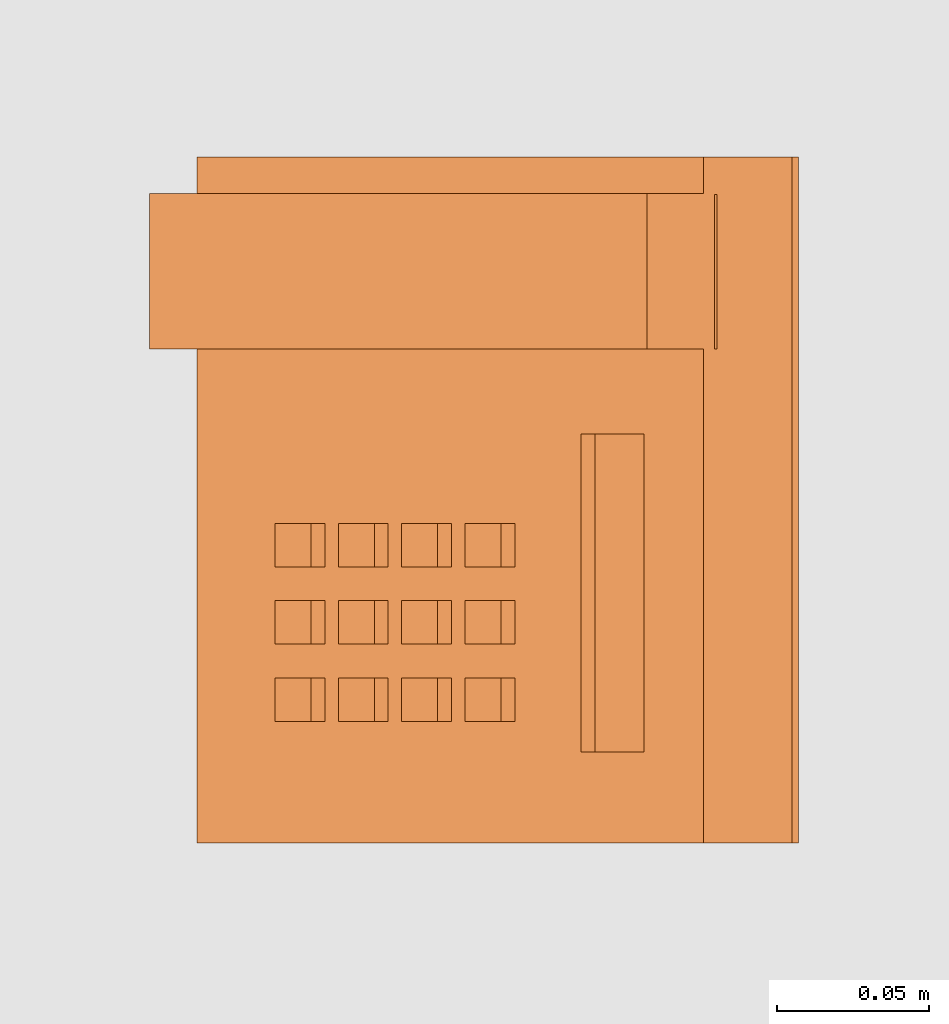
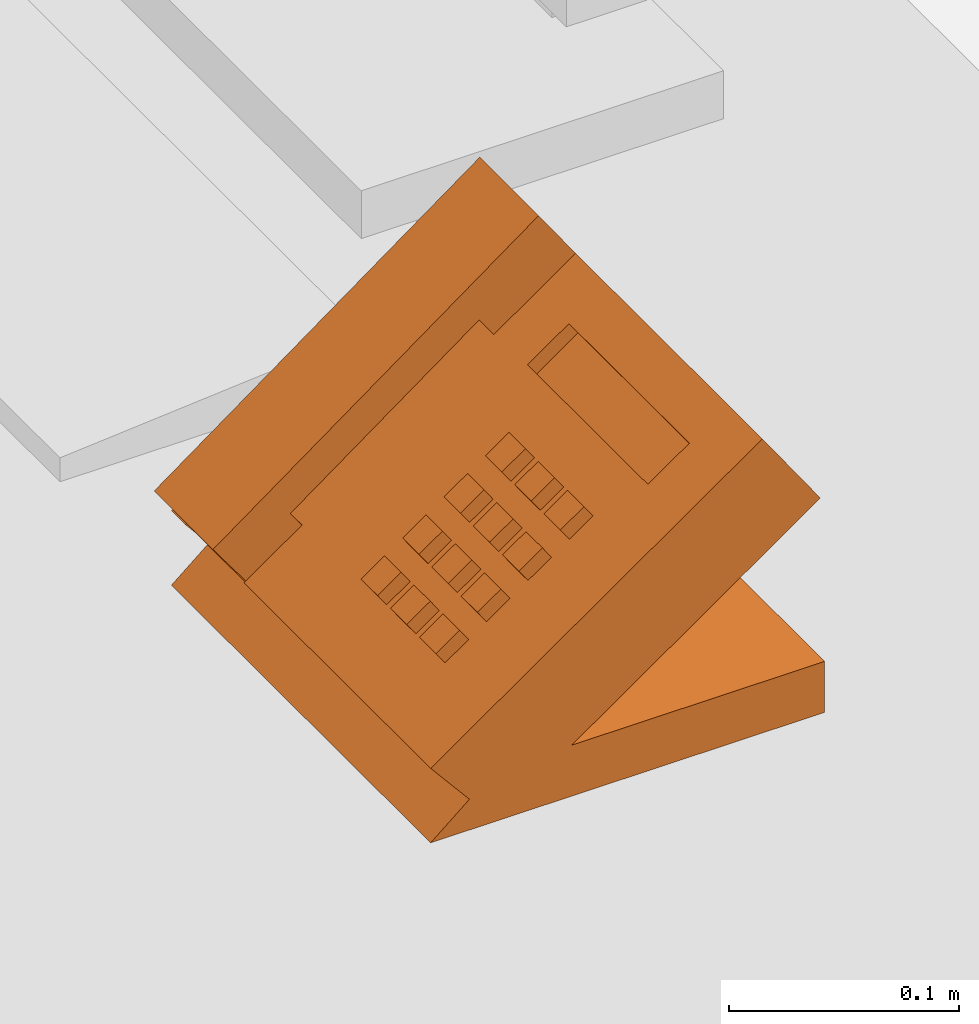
# One storey, part 8 of 10: 1 proxy.
"""IFC2X3 building model written with IfcOpenShell, lengths in feet."""

import ifcopenshell
import ifcopenshell.guid

model = None  # the IFC model being written
_history = None  # IfcOwnerHistory: only IFC2X3 demands one
_inside = {}  # id of a spatial element -> (the spatial element, [elements in it])
_under = {}  # id of a project, library or spatial element -> (it, [spatial elements below it])
_declared = {}  # id of a project -> (the project, [libraries it declares])
_typed = {}  # id of a type object -> (the type object, [elements of that type])
_made_of = {}  # id of a material, layer set ... -> (it, [elements and type objects made of it])


def new_model(schema):
    """Start an empty IFC model of exactly this schema.

    Asked for "IFC4X3", IfcOpenShell would pick the latest addendum, in which some entities
    have other attributes; the version numbers below select the first issue.
    IFC2X3 requires an IfcOwnerHistory on every rooted entity: one is made here for all.
    """
    global model, _history
    if schema == "IFC4X3":
        model = ifcopenshell.file(schema_version=(4, 3, 0, 0))
    else:
        model = ifcopenshell.file(schema=schema)
    _inside.clear()
    _under.clear()
    _declared.clear()
    _typed.clear()
    _made_of.clear()
    _history = None
    if model.schema == "IFC2X3":
        org = make("IfcOrganization", Name="unknown")
        user = make(
            "IfcPersonAndOrganization",
            ThePerson=make("IfcPerson", FamilyName="unknown"),
            TheOrganization=org,
        )
        app = make(
            "IfcApplication",
            ApplicationDeveloper=org,
            Version="unknown",
            ApplicationFullName="unknown",
            ApplicationIdentifier="unknown",
        )
        _history = make(
            "IfcOwnerHistory",
            OwningUser=user,
            OwningApplication=app,
            ChangeAction="ADDED",
            CreationDate=0,
        )
    return model


def make(cls, **values):
    """One entity of the class cls with the attributes given. An attribute that is None is left unset."""
    return model.create_entity(
        cls, **{name: value for name, value in values.items() if value is not None}
    )


def entity(cls, *values):
    """Any entity or typed value of the class cls, its attributes in the order of the schema. None: left unset."""
    e = model.create_entity(cls)
    for i, value in enumerate(values):
        if value is not None:
            e[i] = value
    return e


def rooted(cls, **values):
    """An entity with a GlobalId (a new one), such as an element, a storey or a relation."""
    return make(cls, GlobalId=ifcopenshell.guid.new(), OwnerHistory=_history, **values)


def si_unit(unit_type, name, prefix=None):
    """IfcSIUnit, for example si_unit("LENGTHUNIT", "METRE", prefix="MILLI")."""
    return make("IfcSIUnit", UnitType=unit_type, Prefix=prefix, Name=name)


def converted_unit(unit_type, name, factor, base, dimensions=None, offset=None):
    """IfcConversionBasedUnit, such as the inch: factor (a typed value) times the base unit."""
    return make(
        "IfcConversionBasedUnit"
        if offset is None
        else "IfcConversionBasedUnitWithOffset",
        ConversionOffset=offset,
        Dimensions=None
        if dimensions is None
        else entity("IfcDimensionalExponents", *dimensions),
        UnitType=unit_type,
        Name=name,
        ConversionFactor=make(
            "IfcMeasureWithUnit", ValueComponent=factor, UnitComponent=base
        ),
    )


def derived_unit(unit_type, elements):
    """IfcDerivedUnit: a product of units, each with its exponent."""
    return make(
        "IfcDerivedUnit",
        Elements=[
            make("IfcDerivedUnitElement", Unit=unit, Exponent=power)
            for unit, power in elements
        ],
        UnitType=unit_type,
    )


def assignment(units):
    """IfcUnitAssignment: the units of a project."""
    return None if units is None else make("IfcUnitAssignment", Units=units)


def point(xyz):
    """IfcCartesianPoint."""
    return None if xyz is None else make("IfcCartesianPoint", Coordinates=xyz)


def direction(xyz):
    """IfcDirection."""
    return None if xyz is None else make("IfcDirection", DirectionRatios=xyz)


def frame(location, z_axis=None, x_axis=None):
    """IfcAxis2Placement3D, a coordinate frame: its origin and axes. An axis left out is left unset."""
    return make(
        "IfcAxis2Placement3D",
        Location=point(location),
        Axis=direction(z_axis),
        RefDirection=direction(x_axis),
    )


def origin():
    """The frame at (0, 0, 0) with its axes left unset."""
    return frame((0.0, 0.0, 0.0))


def place(relative_to, where):
    """IfcLocalPlacement: puts the frame where relative to a parent placement (None: the world)."""
    return make(
        "IfcLocalPlacement", PlacementRelTo=relative_to, RelativePlacement=where
    )


def context(
    kind, dimensions, precision=None, world=None, true_north=None, identifier=None
):
    """IfcGeometricRepresentationContext, for example the 3D "Model" context."""
    return make(
        "IfcGeometricRepresentationContext",
        ContextIdentifier=identifier,
        ContextType=kind,
        CoordinateSpaceDimension=dimensions,
        Precision=precision,
        WorldCoordinateSystem=world,
        TrueNorth=true_north,
    )


def subcontext(parent, identifier, kind, view, scale=None):
    """IfcGeometricRepresentationSubContext, for example "Body" below "Model"."""
    return make(
        "IfcGeometricRepresentationSubContext",
        ContextIdentifier=identifier,
        ContextType=kind,
        ParentContext=parent,
        TargetScale=scale,
        TargetView=view,
    )


def project(units=None, contexts=None):
    """IfcProject with its units and contexts."""
    return rooted(
        "IfcProject",
        Name="project",
        RepresentationContexts=contexts,
        UnitsInContext=assignment(units),
    )


def spatial(cls, under=None, at=None, **own):
    """A site, building, storey or space (cls), placed at a placement, below another one or the project."""
    s = rooted(cls, ObjectPlacement=at, **own)
    if under is not None:
        _under.setdefault(under.id(), (under, []))[1].append(s)
    return s


def faces_of(points, faces, orient=None, outer=None):
    """IfcFace entities. A face is a list of loops; a loop is a list of indices into points, from 0.

    orient and outer hold one flag for each loop. By default every Orientation is true, the
    first loop of a face is its IfcFaceOuterBound and the others are IfcFaceBound.
    """
    made = []
    for i, loops in enumerate(faces):
        bounds = []
        for j, loop in enumerate(loops):
            is_outer = j == 0 if outer is None else outer[i][j]
            bounds.append(
                make(
                    "IfcFaceOuterBound" if is_outer else "IfcFaceBound",
                    Bound=make("IfcPolyLoop", Polygon=[points[k] for k in loop]),
                    Orientation=True if orient is None else orient[i][j],
                )
            )
        made.append(make("IfcFace", Bounds=bounds))
    return made


def faceted_brep(points, faces, orient=None, outer=None, voids=None):
    """IfcFacetedBrep: a solid bounded by flat faces; with voids (closed shells), ...WithVoids."""
    shared = [point(p) for p in points]
    hull = make("IfcClosedShell", CfsFaces=faces_of(shared, faces, orient, outer))
    if voids is None:
        return make("IfcFacetedBrep", Outer=hull)
    return make(
        "IfcFacetedBrepWithVoids",
        Outer=hull,
        Voids=[
            make(cls, CfsFaces=faces_of(shared, fs, o, b)) for cls, fs, o, b in voids
        ],
    )


def shape(context_of_items, identifier, shape_type, items):
    """IfcShapeRepresentation: the items that make up one representation, for example the "Body"."""
    return make(
        "IfcShapeRepresentation",
        ContextOfItems=context_of_items,
        RepresentationIdentifier=identifier,
        RepresentationType=shape_type,
        Items=items,
    )


def source(mapping_origin, context_of_items, identifier, shape_type, items):
    """IfcRepresentationMap: a shape defined once, which mapped items show again and again."""
    return make(
        "IfcRepresentationMap",
        MappingOrigin=mapping_origin,
        MappedRepresentation=shape(context_of_items, identifier, shape_type, items),
    )


def transform(
    local_origin,
    x_axis=None,
    y_axis=None,
    z_axis=None,
    scale=None,
    scale2=None,
    scale3=None,
    uniform=True,
):
    """IfcCartesianTransformationOperator3D, or its non-uniform kind. x_axis, y_axis, z_axis: its Axis1, 2, 3."""
    if uniform:
        return make(
            "IfcCartesianTransformationOperator3D",
            Axis1=direction(x_axis),
            Axis2=direction(y_axis),
            LocalOrigin=point(local_origin),
            Scale=scale,
            Axis3=direction(z_axis),
        )
    return make(
        "IfcCartesianTransformationOperator3DnonUniform",
        Axis1=direction(x_axis),
        Axis2=direction(y_axis),
        LocalOrigin=point(local_origin),
        Scale=scale,
        Axis3=direction(z_axis),
        Scale2=scale2,
        Scale3=scale3,
    )


def mapped(mapping_source, mapping_target):
    """IfcMappedItem: shows the shape of a source again, moved by a transform."""
    return make(
        "IfcMappedItem", MappingSource=mapping_source, MappingTarget=mapping_target
    )


def made_of(thing, what):
    """Note that an element or type object is made of a material, layer set ...; save() writes the relation."""
    if what is not None:
        _made_of.setdefault(what.id(), (what, []))[1].append(thing)
    return thing


def type_object(cls, material=None, **own):
    """A type object (cls), such as IfcWallType, which elements share."""
    return made_of(rooted(cls, **own), material)


def type_shapes(of_type, sources):
    """Give a type object the sources (RepresentationMaps) that its elements show as mapped items."""
    of_type.RepresentationMaps = sources


def element(
    cls,
    number,
    at=None,
    inside=None,
    cuts=None,
    type_object=None,
    material=None,
    context=None,
    identifier="Body",
    shape_type=None,
    held_by="IfcProductDefinitionShape",
    body=None,
    shapes=None,
    **own,
):
    """One element of the class cls, such as IfcWall. Its Tag is "e" and its number.

    at: its placement. inside: the storey or other place that contains it. cuts: it is an
    opening in that element (IfcRelVoidsElement). A single representation is given by context,
    identifier, shape_type and body (its items); several are given by shapes. held_by: the class
    of the entity that holds the representations. save() writes the other relations.
    """
    e = rooted(cls, Tag="e%d" % number, ObjectPlacement=at, **own)
    if body is not None:
        shapes = [shape(context, identifier, shape_type, body)]
    if shapes is not None:
        e.Representation = make(held_by, Representations=shapes)
    if inside is not None:
        _inside.setdefault(inside.id(), (inside, []))[1].append(e)
    if cuts is not None:
        rooted(
            "IfcRelVoidsElement", RelatingBuildingElement=cuts, RelatedOpeningElement=e
        )
    if type_object is not None:
        _typed.setdefault(type_object.id(), (type_object, []))[1].append(e)
    return made_of(e, material)


def aggregate(whole, parts):
    """IfcRelAggregates: a whole, such as a stair, and the parts it consists of."""
    return rooted("IfcRelAggregates", RelatingObject=whole, RelatedObjects=parts)


def save(model, path):
    """Write the relations noted so far, then the file.

    IfcRelAggregates (storeys below a building ...), IfcRelContainedInSpatialStructure (elements
    in a storey), IfcRelDefinesByType, IfcRelAssociatesMaterial and IfcRelDeclares: one each for
    every whole, place, type object, material and project.
    """
    for whole, parts in _under.values():
        aggregate(whole, parts)
    for where, things in _inside.values():
        rooted(
            "IfcRelContainedInSpatialStructure",
            RelatedElements=things,
            RelatingStructure=where,
        )
    for kind, things in _typed.values():
        rooted("IfcRelDefinesByType", RelatedObjects=things, RelatingType=kind)
    for what, things in _made_of.values():
        rooted("IfcRelAssociatesMaterial", RelatedObjects=things, RelatingMaterial=what)
    for by, libraries in _declared.values():
        rooted("IfcRelDeclares", RelatingContext=by, RelatedDefinitions=libraries)
    model.write(path)


model = new_model("IFC2X3")

# Units and contexts
model_context = context("Model", 3, precision=0.0001, world=origin(), true_north=direction((6.12303176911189e-17, 1.0)))
body_context = subcontext(model_context, "Body", "Model", "MODEL_VIEW")
ifc_project = project(units=[converted_unit("LENGTHUNIT", "FOOT", entity("IfcRatioMeasure", 0.3048), si_unit("LENGTHUNIT", "METRE"), dimensions=[1, 0, 0, 0, 0, 0, 0]), converted_unit("AREAUNIT", "SQUARE FOOT", entity("IfcRatioMeasure", 0.09290304), si_unit("AREAUNIT", "SQUARE_METRE"), dimensions=[2, 0, 0, 0, 0, 0, 0]), converted_unit("VOLUMEUNIT", "CUBIC FOOT", entity("IfcRatioMeasure", 0.028316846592), si_unit("VOLUMEUNIT", "CUBIC_METRE"), dimensions=[3, 0, 0, 0, 0, 0, 0]), converted_unit("PLANEANGLEUNIT", "DEGREE", entity("IfcRatioMeasure", 0.0174532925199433), si_unit("PLANEANGLEUNIT", "RADIAN"), dimensions=[0, 0, 0, 0, 0, 0, 0]), si_unit("MASSUNIT", "GRAM", prefix="KILO"), derived_unit("MASSDENSITYUNIT", [(si_unit("MASSUNIT", "GRAM", prefix="KILO"), 1), (si_unit("LENGTHUNIT", "METRE"), -3)]), si_unit("TIMEUNIT", "SECOND"), si_unit("FREQUENCYUNIT", "HERTZ"), si_unit("THERMODYNAMICTEMPERATUREUNIT", "DEGREE_CELSIUS"), derived_unit("THERMALTRANSMITTANCEUNIT", [(si_unit("MASSUNIT", "GRAM", prefix="KILO"), 1), (si_unit("THERMODYNAMICTEMPERATUREUNIT", "KELVIN"), -1), (si_unit("TIMEUNIT", "SECOND"), -3)]), derived_unit("VOLUMETRICFLOWRATEUNIT", [(si_unit("LENGTHUNIT", "METRE"), 3), (si_unit("TIMEUNIT", "SECOND"), -1)]), si_unit("ELECTRICCURRENTUNIT", "AMPERE"), si_unit("ELECTRICVOLTAGEUNIT", "VOLT"), si_unit("POWERUNIT", "WATT"), si_unit("FORCEUNIT", "NEWTON"), si_unit("ILLUMINANCEUNIT", "LUX"), si_unit("LUMINOUSFLUXUNIT", "LUMEN"), si_unit("LUMINOUSINTENSITYUNIT", "CANDELA"), derived_unit("USERDEFINED", [(si_unit("MASSUNIT", "GRAM", prefix="KILO"), -1), (si_unit("LENGTHUNIT", "METRE"), -2), (si_unit("TIMEUNIT", "SECOND"), 3), (si_unit("LUMINOUSFLUXUNIT", "LUMEN"), 1)]), derived_unit("LINEARVELOCITYUNIT", [(si_unit("LENGTHUNIT", "METRE"), 1), (si_unit("TIMEUNIT", "SECOND"), -1)]), si_unit("PRESSUREUNIT", "PASCAL"), derived_unit("USERDEFINED", [(si_unit("LENGTHUNIT", "METRE"), -2), (si_unit("MASSUNIT", "GRAM", prefix="KILO"), 1), (si_unit("TIMEUNIT", "SECOND"), -2)])], contexts=[model_context])

# Site, building, storey, space
site_placement = place(None, origin())
site = spatial("IfcSite", under=ifc_project, at=site_placement, Name="Default", CompositionType="ELEMENT")
building_placement = place(site_placement, origin())
building = spatial("IfcBuilding", under=site, at=building_placement, Name="OUTPATIENT / PACT CLINIC (Ch. 265)", CompositionType="ELEMENT")
storey_placement = place(building_placement, origin())
storey = spatial("IfcBuildingStorey", under=building, at=storey_placement, Name="DATUM", CompositionType="ELEMENT", Elevation=0.0)
space_placement = place(storey_placement, origin())
space = spatial("IfcSpace", under=storey, at=space_placement, Name="OFDC2", CompositionType="ELEMENT", InteriorOrExteriorSpace="INTERNAL")

# Proxy
building_element_proxy_type = type_object("IfcBuildingElementProxyType", Name="A1015 Telephone_Desk Multi-Line", PredefinedType="NOTDEFINED")
shared_shape = source(origin(), body_context, "Body", "Brep", [
    faceted_brep([(0.700520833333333, 0.261320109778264, 0.451787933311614), (0.700520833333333, 0.572560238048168, 0.223329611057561), (0.700520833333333, 0.538332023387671, 0.176698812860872), (0.700520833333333, 0.629478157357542, 0.109798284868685), (0.700520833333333, 0.699689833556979, 0.205455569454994), (0.700520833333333, 0.163563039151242, 0.598968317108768), (0.700520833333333, 0.0904130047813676, 0.494499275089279), (0.700520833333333, 0.225161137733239, 0.400147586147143), (0.532645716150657, 0.261320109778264, 0.451787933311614), (0.532645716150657, 0.225161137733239, 0.400147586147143), (0.532645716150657, 0.0904130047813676, 0.494499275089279), (0.532645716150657, 0.163563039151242, 0.598968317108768), (0.532645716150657, 0.699689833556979, 0.205455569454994), (0.532645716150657, 0.629478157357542, 0.109798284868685), (0.532645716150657, 0.538332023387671, 0.176698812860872), (0.532645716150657, 0.572560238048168, 0.223329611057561)], [[[0, 1, 2, 3, 4, 5, 6, 7]], [[8, 9, 10, 11, 12, 13, 14, 15]], [[1, 0, 8, 15]], [[2, 1, 15, 14]], [[3, 2, 14, 13]], [[4, 3, 13, 12]], [[5, 4, 12, 11]], [[6, 5, 11, 10]], [[7, 6, 10, 9]], [[0, 7, 9, 8]]]),
    faceted_brep([(0.297587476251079, 0.457472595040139, 0.295395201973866), (0.344462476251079, 0.457472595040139, 0.295395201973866), (0.344462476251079, 0.49615327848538, 0.268310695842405), (0.297587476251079, 0.49615327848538, 0.268310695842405), (0.297587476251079, 0.442535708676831, 0.274063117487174), (0.297587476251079, 0.481216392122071, 0.246978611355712), (0.344462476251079, 0.481216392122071, 0.246978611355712), (0.344462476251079, 0.442535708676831, 0.274063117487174)], [[[0, 1, 2, 3]], [[4, 5, 6, 7]], [[1, 0, 4, 7]], [[2, 1, 7, 6]], [[3, 2, 6, 5]], [[0, 3, 5, 4]]]),
    faceted_brep([(0.29758747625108, 0.525735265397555, 0.247597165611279), (0.34446247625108, 0.525735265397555, 0.247597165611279), (0.34446247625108, 0.564415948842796, 0.220512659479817), (0.29758747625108, 0.564415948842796, 0.220512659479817), (0.29758747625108, 0.510798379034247, 0.226265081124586), (0.29758747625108, 0.549479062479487, 0.199180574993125), (0.34446247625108, 0.549479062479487, 0.199180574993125), (0.34446247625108, 0.510798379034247, 0.226265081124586)], [[[0, 1, 2, 3]], [[4, 5, 6, 7]], [[1, 0, 4, 7]], [[2, 1, 7, 6]], [[3, 2, 6, 5]], [[0, 3, 5, 4]]]),
    faceted_brep([(0.214254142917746, 0.525735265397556, 0.247597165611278), (0.261129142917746, 0.525735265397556, 0.247597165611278), (0.261129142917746, 0.564415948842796, 0.220512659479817), (0.214254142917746, 0.564415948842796, 0.220512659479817), (0.214254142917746, 0.510798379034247, 0.226265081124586), (0.214254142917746, 0.549479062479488, 0.199180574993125), (0.261129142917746, 0.549479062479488, 0.199180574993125), (0.261129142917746, 0.510798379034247, 0.226265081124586)], [[[0, 1, 2, 3]], [[4, 5, 6, 7]], [[1, 0, 4, 7]], [[2, 1, 7, 6]], [[3, 2, 6, 5]], [[0, 3, 5, 4]]]),
    faceted_brep([(0.130920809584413, 0.525735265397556, 0.247597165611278), (0.177795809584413, 0.525735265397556, 0.247597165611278), (0.177795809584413, 0.564415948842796, 0.220512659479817), (0.130920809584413, 0.564415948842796, 0.220512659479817), (0.130920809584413, 0.510798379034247, 0.226265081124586), (0.130920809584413, 0.549479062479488, 0.199180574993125), (0.177795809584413, 0.549479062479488, 0.199180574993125), (0.177795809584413, 0.510798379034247, 0.226265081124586)], [[[0, 1, 2, 3]], [[4, 5, 6, 7]], [[1, 0, 4, 7]], [[2, 1, 7, 6]], [[3, 2, 6, 5]], [[0, 3, 5, 4]]]),
    faceted_brep([(0.130920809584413, 0.45747259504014, 0.295395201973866), (0.177795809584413, 0.45747259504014, 0.295395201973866), (0.177795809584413, 0.496153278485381, 0.268310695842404), (0.130920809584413, 0.496153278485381, 0.268310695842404), (0.130920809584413, 0.442535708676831, 0.274063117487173), (0.130920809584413, 0.481216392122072, 0.246978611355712), (0.177795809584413, 0.481216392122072, 0.246978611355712), (0.177795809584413, 0.442535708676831, 0.274063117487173)], [[[0, 1, 2, 3]], [[4, 5, 6, 7]], [[1, 0, 4, 7]], [[2, 1, 7, 6]], [[3, 2, 6, 5]], [[0, 3, 5, 4]]]),
    faceted_brep([(0.214254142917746, 0.389209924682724, 0.343193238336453), (0.261129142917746, 0.389209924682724, 0.343193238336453), (0.261129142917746, 0.427890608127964, 0.316108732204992), (0.214254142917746, 0.427890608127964, 0.316108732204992), (0.214254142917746, 0.374273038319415, 0.321861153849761), (0.214254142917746, 0.412953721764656, 0.2947766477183), (0.261129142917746, 0.412953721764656, 0.2947766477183), (0.261129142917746, 0.374273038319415, 0.321861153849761)], [[[0, 1, 2, 3]], [[4, 5, 6, 7]], [[1, 0, 4, 7]], [[2, 1, 7, 6]], [[3, 2, 6, 5]], [[0, 3, 5, 4]]]),
    faceted_brep([(0.130920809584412, 0.389209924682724, 0.343193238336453), (0.177795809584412, 0.389209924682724, 0.343193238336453), (0.177795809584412, 0.427890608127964, 0.316108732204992), (0.130920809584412, 0.427890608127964, 0.316108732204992), (0.130920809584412, 0.374273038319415, 0.321861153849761), (0.130920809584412, 0.412953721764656, 0.2947766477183), (0.177795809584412, 0.412953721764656, 0.2947766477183), (0.177795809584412, 0.374273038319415, 0.321861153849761)], [[[0, 1, 2, 3]], [[4, 5, 6, 7]], [[1, 0, 4, 7]], [[2, 1, 7, 6]], [[3, 2, 6, 5]], [[0, 3, 5, 4]]]),
    faceted_brep([(0.214254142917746, 0.457472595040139, 0.295395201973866), (0.261129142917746, 0.457472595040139, 0.295395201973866), (0.261129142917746, 0.49615327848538, 0.268310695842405), (0.214254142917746, 0.49615327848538, 0.268310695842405), (0.214254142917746, 0.442535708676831, 0.274063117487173), (0.214254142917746, 0.481216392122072, 0.246978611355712), (0.261129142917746, 0.481216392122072, 0.246978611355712), (0.261129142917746, 0.442535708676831, 0.274063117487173)], [[[0, 1, 2, 3]], [[4, 5, 6, 7]], [[1, 0, 4, 7]], [[2, 1, 7, 6]], [[3, 2, 6, 5]], [[0, 3, 5, 4]]]),
    faceted_brep([(0.297587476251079, 0.389209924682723, 0.343193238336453), (0.344462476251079, 0.389209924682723, 0.343193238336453), (0.344462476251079, 0.427890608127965, 0.316108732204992), (0.297587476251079, 0.427890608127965, 0.316108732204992), (0.297587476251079, 0.374273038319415, 0.321861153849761), (0.297587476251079, 0.412953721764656, 0.294776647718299), (0.344462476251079, 0.412953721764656, 0.294776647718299), (0.344462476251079, 0.374273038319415, 0.321861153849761)], [[[0, 1, 2, 3]], [[4, 5, 6, 7]], [[1, 0, 4, 7]], [[2, 1, 7, 6]], [[3, 2, 6, 5]], [[0, 3, 5, 4]]]),
    faceted_brep([(0.130920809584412, 0.320947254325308, 0.39099127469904), (0.177795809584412, 0.320947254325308, 0.39099127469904), (0.177795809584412, 0.359627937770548, 0.363906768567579), (0.130920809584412, 0.359627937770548, 0.363906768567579), (0.130920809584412, 0.306010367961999, 0.369659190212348), (0.130920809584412, 0.34469105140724, 0.342574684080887), (0.177795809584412, 0.34469105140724, 0.342574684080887), (0.177795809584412, 0.306010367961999, 0.369659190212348)], [[[0, 1, 2, 3]], [[4, 5, 6, 7]], [[1, 0, 4, 7]], [[2, 1, 7, 6]], [[3, 2, 6, 5]], [[0, 3, 5, 4]]]),
    faceted_brep([(0.214254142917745, 0.320947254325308, 0.39099127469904), (0.261129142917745, 0.320947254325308, 0.39099127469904), (0.261129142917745, 0.359627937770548, 0.363906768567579), (0.214254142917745, 0.359627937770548, 0.363906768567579), (0.214254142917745, 0.306010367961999, 0.369659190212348), (0.214254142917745, 0.34469105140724, 0.342574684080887), (0.261129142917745, 0.34469105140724, 0.342574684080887), (0.261129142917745, 0.306010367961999, 0.369659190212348)], [[[0, 1, 2, 3]], [[4, 5, 6, 7]], [[1, 0, 4, 7]], [[2, 1, 7, 6]], [[3, 2, 6, 5]], [[0, 3, 5, 4]]]),
    faceted_brep([(0.297587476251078, 0.320947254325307, 0.390991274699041), (0.344462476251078, 0.320947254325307, 0.390991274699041), (0.344462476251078, 0.359627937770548, 0.363906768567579), (0.297587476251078, 0.359627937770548, 0.363906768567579), (0.297587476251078, 0.306010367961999, 0.369659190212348), (0.297587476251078, 0.34469105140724, 0.342574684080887), (0.344462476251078, 0.34469105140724, 0.342574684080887), (0.344462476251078, 0.306010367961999, 0.369659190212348)], [[[0, 1, 2, 3]], [[4, 5, 6, 7]], [[1, 0, 4, 7]], [[2, 1, 7, 6]], [[3, 2, 6, 5]], [[0, 3, 5, 4]]]),
    faceted_brep([(0.739583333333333, 0.584951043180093, 0.0535656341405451), (0.739583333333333, 0.648788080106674, 0.129643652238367), (0.739583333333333, 0.102686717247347, 0.512027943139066), (0.739583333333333, 0.00709064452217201, 0.375502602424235), (0.739583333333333, 0.416666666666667, 0.0887143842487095), (0.739583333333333, 0.0, 0.0887143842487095), (0.739583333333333, 0.0, 0.0), (0.739583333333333, 0.648788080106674, 0.0), (0.0, 0.416666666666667, 0.0887143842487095), (0.0, 0.00709064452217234, 0.375502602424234), (0.0, 0.102686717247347, 0.512027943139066), (0.0, 0.648788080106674, 0.129643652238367), (0.0, 0.584951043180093, 0.0535656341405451), (0.0, 0.648788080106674, 0.0), (0.0, 0.0, 0.0), (0.0, 0.0, 0.0887143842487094), (0.532645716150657, 0.648788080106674, 0.129643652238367), (0.532645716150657, 0.631984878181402, 0.109618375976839), (0.699312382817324, 0.631984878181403, 0.10961837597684), (0.699312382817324, 0.648788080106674, 0.129643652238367), (0.699312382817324, 0.597591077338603, 0.165492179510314), (0.688147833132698, 0.205080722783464, 0.44033088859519), (0.68766856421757, 0.582470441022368, 0.176079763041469), (0.676024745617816, 0.567349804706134, 0.186667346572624), (0.67289677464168, 0.217573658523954, 0.431583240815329), (0.657645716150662, 0.230066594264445, 0.422835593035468), (0.65691415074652, 0.558715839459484, 0.192712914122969), (0.637803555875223, 0.550081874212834, 0.198758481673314), (0.636812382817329, 0.234639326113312, 0.41963373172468), (0.615979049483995, 0.239212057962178, 0.416431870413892), (0.61597904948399, 0.550081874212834, 0.198758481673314), (0.594154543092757, 0.550081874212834, 0.198758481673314), (0.595145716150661, 0.234639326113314, 0.419633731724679), (0.574312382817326, 0.230066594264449, 0.422835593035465), (0.441208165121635, 0.234600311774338, 0.419661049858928), (0.575043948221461, 0.558715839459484, 0.192712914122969), (0.555933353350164, 0.567349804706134, 0.186667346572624), (0.542406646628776, 0.58491555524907, 0.174367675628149), (0.532645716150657, 0.597591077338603, 0.165492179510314), (0.0978645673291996, 0.234600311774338, 0.419661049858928), (0.0978645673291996, 0.166337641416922, 0.467459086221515), (0.532645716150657, 0.102686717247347, 0.512027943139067), (0.441208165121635, 0.166337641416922, 0.467459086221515), (0.532645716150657, 0.170949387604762, 0.46422990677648), (0.538227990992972, 0.188015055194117, 0.452280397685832), (0.543810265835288, 0.205080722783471, 0.440330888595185), (0.559061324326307, 0.21757365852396, 0.431583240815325), (0.693730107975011, 0.188015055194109, 0.452280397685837), (0.699312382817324, 0.170949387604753, 0.464229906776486), (0.699312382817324, 0.102686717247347, 0.512027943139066), (0.699312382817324, 0.0877498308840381, 0.490695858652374), (0.532645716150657, 0.0877498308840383, 0.490695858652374), (0.0978645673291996, 0.151400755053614, 0.446127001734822), (0.441208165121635, 0.151400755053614, 0.446127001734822), (0.441208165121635, 0.219663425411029, 0.398328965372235), (0.0978645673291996, 0.219663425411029, 0.398328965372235), (0.597435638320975, 0.222563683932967, 0.396298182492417), (0.580728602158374, 0.215973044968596, 0.400912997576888), (0.564021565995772, 0.209382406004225, 0.40552781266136), (0.55245993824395, 0.197506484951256, 0.413843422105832), (0.540898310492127, 0.185630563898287, 0.422159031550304), (0.536626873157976, 0.170300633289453, 0.432893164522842), (0.532645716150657, 0.156012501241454, 0.442897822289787), (0.699312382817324, 0.156012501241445, 0.442897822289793), (0.695331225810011, 0.170300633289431, 0.432893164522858), (0.691059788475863, 0.18563056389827, 0.422159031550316), (0.679498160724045, 0.197506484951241, 0.413843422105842), (0.667936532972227, 0.209382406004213, 0.405527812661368), (0.651229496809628, 0.215973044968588, 0.400912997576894), (0.634522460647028, 0.222563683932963, 0.39629818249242), (0.615979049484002, 0.222563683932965, 0.396298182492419), (0.532645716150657, 0.582654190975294, 0.144160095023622), (0.54428953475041, 0.56753355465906, 0.154747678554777), (0.555933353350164, 0.552412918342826, 0.165335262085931), (0.575043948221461, 0.543778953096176, 0.171380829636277), (0.594154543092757, 0.535144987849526, 0.177426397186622), (0.61597904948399, 0.535144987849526, 0.177426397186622), (0.637803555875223, 0.535144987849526, 0.177426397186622), (0.65691415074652, 0.543778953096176, 0.171380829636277), (0.676024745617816, 0.552412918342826, 0.165335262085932), (0.689551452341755, 0.569978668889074, 0.153035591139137), (0.699312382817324, 0.582654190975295, 0.144160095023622)], [[[0, 1, 2, 3, 4, 5, 6, 7]], [[8, 9, 10, 11, 12, 13, 14, 15]], [[0, 7, 13, 12]], [[0, 12, 11, 16, 17, 18, 19, 1]], [[1, 19, 20]], [[21, 1, 20]], [[2, 1, 21]], [[21, 20, 22]], [[21, 22, 23]], [[23, 24, 21]], [[23, 25, 24]], [[25, 23, 26]], [[25, 26, 27]], [[27, 28, 25]], [[27, 29, 28]], [[29, 27, 30]], [[29, 30, 31]], [[31, 32, 29]], [[31, 33, 32]], [[34, 33, 31]], [[34, 31, 35]], [[34, 35, 36]], [[34, 36, 37]], [[34, 37, 38]], [[38, 39, 34]], [[39, 38, 11]], [[38, 16, 11]], [[39, 11, 10]], [[10, 40, 39]], [[10, 41, 40]], [[40, 41, 42]], [[42, 41, 43]], [[42, 43, 44]], [[42, 44, 45]], [[34, 45, 46]], [[42, 45, 34]], [[34, 46, 33]], [[2, 21, 47]], [[2, 47, 48]], [[2, 48, 49]], [[2, 49, 50, 51, 41, 10, 9, 3]], [[4, 3, 9, 8]], [[5, 4, 8, 15]], [[6, 5, 15, 14]], [[7, 6, 14, 13]], [[52, 53, 54, 55]], [[56, 57, 58, 59, 60, 61, 62, 51, 50, 63, 64, 65, 66, 67, 68, 69, 70]], [[17, 71, 72, 73, 74, 75, 76, 77, 78, 79, 80, 81, 18]], [[52, 40, 42, 53]], [[54, 53, 42, 34]], [[54, 34, 39, 55]], [[55, 39, 40, 52]], [[50, 49, 48, 63]], [[18, 81, 20, 19]], [[64, 63, 48]], [[56, 29, 32]], [[33, 57, 32]], [[66, 24, 67]], [[64, 47, 65]], [[21, 65, 47]], [[28, 68, 25]], [[65, 21, 66]], [[68, 28, 69]], [[47, 64, 48]], [[56, 32, 57]], [[45, 60, 59]], [[45, 59, 46]], [[56, 70, 69, 29]], [[33, 58, 57]], [[45, 44, 60]], [[43, 62, 61]], [[33, 46, 58]], [[24, 66, 21]], [[58, 46, 59]], [[44, 43, 61]], [[24, 25, 67]], [[29, 69, 28]], [[68, 67, 25]], [[61, 60, 44]], [[62, 43, 41, 51]], [[17, 16, 38, 71]], [[73, 72, 71, 38, 37, 36]], [[20, 81, 80, 79, 23, 22]], [[36, 35, 31, 75, 74, 73]], [[77, 76, 75, 31, 30, 27]], [[27, 26, 23, 79, 78, 77]]]),
])
type_shapes(building_element_proxy_type, [shared_shape])
proxy_placement = place(space_placement, frame((-71.7018036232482, -856.357117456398, 2.41666666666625), z_axis=(0.0, 0.0, 1.0), x_axis=(0.0, 1.0, 0.0)))
element("IfcBuildingElementProxy", 1, at=proxy_placement, inside=space, type_object=building_element_proxy_type, Name="A1015 - Telephone, Desk, Multiple Line:A1015 Telephone_Desk Multi-Line", ObjectType="A1015 Telephone_Desk Multi-Line", context=body_context, shape_type="MappedRepresentation", body=[
    mapped(shared_shape, transform((0.0, 0.0, 0.0), scale=1.0)),
])

save(model, "model.ifc")
